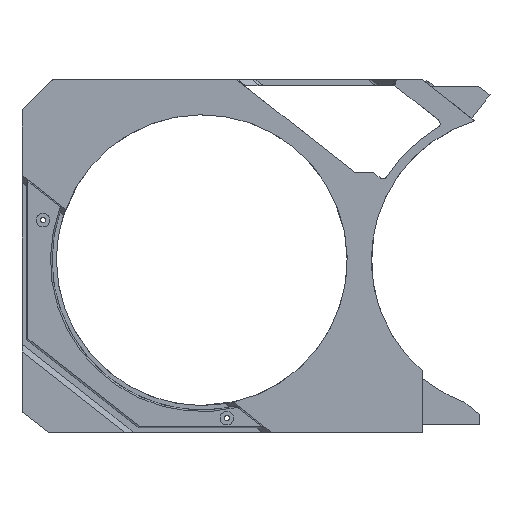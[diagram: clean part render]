
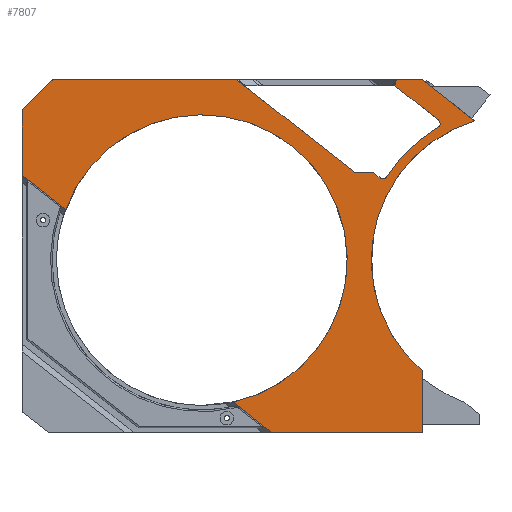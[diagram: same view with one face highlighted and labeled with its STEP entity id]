
A CAD part, top view. The second image highlights one B-rep face of the part: STEP entity #7807.
In plain terms, the highlighted planar face has unit normal (0, 0, 1).
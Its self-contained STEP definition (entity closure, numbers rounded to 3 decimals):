
#938=CARTESIAN_POINT('',(0.,0.,3.8));
#939=DIRECTION('',(0.,0.,-1.));
#940=DIRECTION('',(-0.649,-0.76,0.));
#941=AXIS2_PLACEMENT_3D('',#938,#939,#940);
#2371=DIRECTION('',(0.,1.,0.));
#2372=VECTOR('',#2371,20.52);
#2373=CARTESIAN_POINT('',(-31.498,-57.4,3.8));
#2374=LINE('',#2373,#2372);
#2378=DIRECTION('',(1.,0.,0.));
#2379=VECTOR('',#2378,50.345);
#2380=CARTESIAN_POINT('',(-81.843,-57.4,3.8));
#2381=LINE('',#2380,#2379);
#2385=DIRECTION('',(0.786,-0.618,0.));
#2386=VECTOR('',#2385,3.235);
#2387=CARTESIAN_POINT('',(-84.385,-55.4,
3.8));
#2388=LINE('',#2387,#2386);
#2392=DIRECTION('',(-0.786,0.618,0.));
#2393=VECTOR('',#2392,10.438);
#2394=CARTESIAN_POINT('',(-84.385,-55.4,
3.8));
#2395=LINE('',#2394,#2393);
#2399=DIRECTION('',(0.786,-0.618,0.));
#2400=VECTOR('',#2399,2.549);
#2401=CARTESIAN_POINT('',(-94.593,-47.37,3.8));
#2402=LINE('',#2401,#2400);
#2406=DIRECTION('',(-0.786,0.618,0.));
#2407=VECTOR('',#2406,2.104);
#2408=CARTESIAN_POINT('',(-150.453,16.921,3.8));
#2409=LINE('',#2408,#2407);
#2413=DIRECTION('',(-0.786,0.618,0.));
#2414=VECTOR('',#2413,13.861);
#2415=CARTESIAN_POINT('',(-152.106,18.221,3.8));
#2416=LINE('',#2415,#2414);
#2420=DIRECTION('',(-0.786,0.618,0.));
#2421=VECTOR('',#2420,2.545);
#2422=CARTESIAN_POINT('',(-163.,26.791,3.8));
#2423=LINE('',#2422,#2421);
#2427=DIRECTION('',(0.,-1.,0.));
#2428=VECTOR('',#2427,20.743);
#2429=CARTESIAN_POINT('',(-165.,49.107,3.8));
#2430=LINE('',#2429,#2428);
#2434=CARTESIAN_POINT('',(-162.6,49.107,3.8));
#2435=DIRECTION('',(0.,0.,1.));
#2436=DIRECTION('',(-0.707,0.707,0.));
#2437=AXIS2_PLACEMENT_3D('',#2434,#2435,#2436);
#2442=DIRECTION('',(-0.707,-0.707,0.));
#2443=VECTOR('',#2442,12.874);
#2444=CARTESIAN_POINT('',(-155.194,59.907,3.8));
#2445=LINE('',#2444,#2443);
#2449=CARTESIAN_POINT('',(-154.487,59.2,3.8));
#2450=DIRECTION('',(0.,0.,1.));
#2451=DIRECTION('',(0.,1.,0.));
#2452=AXIS2_PLACEMENT_3D('',#2449,#2450,#2451);
#2457=DIRECTION('',(-1.,0.,0.));
#2458=VECTOR('',#2457,61.155);
#2459=CARTESIAN_POINT('',(-93.332,60.2,3.8));
#2460=LINE('',#2459,#2458);
#2464=DIRECTION('',(-0.786,0.618,0.));
#2465=VECTOR('',#2464,49.393);
#2466=CARTESIAN_POINT('',(-54.51,29.662,3.8));
#2467=LINE('',#2466,#2465);
#2471=CARTESIAN_POINT('',(-53.521,30.92,3.8));
#2472=DIRECTION('',(0.,0.,-1.));
#2473=DIRECTION('',(0.,-1.,0.));
#2474=AXIS2_PLACEMENT_3D('',#2471,#2472,#2473);
#2479=DIRECTION('',(-1.,0.,0.));
#2480=VECTOR('',#2479,5.071);
#2481=CARTESIAN_POINT('',(-48.45,29.32,3.8));
#2482=LINE('',#2481,#2480);
#2486=CARTESIAN_POINT('',(-48.45,27.72,3.8));
#2487=DIRECTION('',(0.,0.,1.));
#2488=DIRECTION('',(0.618,0.786,0.));
#2489=AXIS2_PLACEMENT_3D('',#2486,#2487,#2488);
#2494=DIRECTION('',(-0.786,0.618,0.));
#2495=VECTOR('',#2494,2.461);
#2496=CARTESIAN_POINT('',(-45.526,27.455,3.8));
#2497=LINE('',#2496,#2495);
#2501=CARTESIAN_POINT('',(-44.599,28.634,3.8));
#2502=DIRECTION('',(0.,0.,-1.));
#2503=DIRECTION('',(0.841,-0.54,0.));
#2504=AXIS2_PLACEMENT_3D('',#2501,#2502,#2503);
#2509=CARTESIAN_POINT('',(0.,0.,3.8));
#2510=DIRECTION('',(0.,0.,1.));
#2511=DIRECTION('',(-0.51,0.86,0.));
#2512=AXIS2_PLACEMENT_3D('',#2509,#2510,#2511);
#2517=CARTESIAN_POINT('',(-27.03,45.589,3.8));
#2518=DIRECTION('',(0.,0.,-1.));
#2519=DIRECTION('',(0.618,0.786,0.));
#2520=AXIS2_PLACEMENT_3D('',#2517,#2518,#2519);
#2525=DIRECTION('',(0.786,-0.618,0.));
#2526=VECTOR('',#2525,18.525);
#2527=CARTESIAN_POINT('',(-40.663,58.222,3.8));
#2528=LINE('',#2527,#2526);
#2532=DIRECTION('',(-0.327,-0.945,0.));
#2533=VECTOR('',#2532,2.094);
#2534=CARTESIAN_POINT('',(-39.978,60.2,3.8));
#2535=LINE('',#2534,#2533);
#2539=DIRECTION('',(-1.,0.,0.));
#2540=VECTOR('',#2539,8.48);
#2541=CARTESIAN_POINT('',(-31.498,60.2,3.8));
#2542=LINE('',#2541,#2540);
#2546=DIRECTION('',(0.786,-0.618,0.));
#2547=VECTOR('',#2546,22.262);
#2548=CARTESIAN_POINT('',(-31.498,60.2,3.8));
#2549=LINE('',#2548,#2547);
#2686=CARTESIAN_POINT('',(-150.453,16.921,3.8));
#2844=CARTESIAN_POINT('',(-94.593,-47.37,3.8));
#3476=CARTESIAN_POINT('',(-105.,0.,3.8));
#3477=DIRECTION('',(0.,0.,-1.));
#3478=DIRECTION('',(-0.937,0.349,0.));
#3479=AXIS2_PLACEMENT_3D('',#3476,#3477,#3478);
#5109=CARTESIAN_POINT('',(-164.297,50.804,3.8));
#5110=CARTESIAN_POINT('',(-165.,49.107,3.8));
#5111=VERTEX_POINT('',#5109);
#5112=VERTEX_POINT('',#5110);
#5113=CARTESIAN_POINT('',(-39.978,60.2,3.8));
#5114=CARTESIAN_POINT('',(-40.663,58.222,3.8));
#5115=VERTEX_POINT('',#5113);
#5116=VERTEX_POINT('',#5114);
#5117=CARTESIAN_POINT('',(-26.103,46.768,3.8));
#5118=VERTEX_POINT('',#5117);
#5119=CARTESIAN_POINT('',(-26.265,44.299,3.8));
#5120=VERTEX_POINT('',#5119);
#5121=CARTESIAN_POINT('',(-43.337,27.824,3.8));
#5122=VERTEX_POINT('',#5121);
#5123=CARTESIAN_POINT('',(-45.526,27.455,3.8));
#5124=VERTEX_POINT('',#5123);
#5125=CARTESIAN_POINT('',(-47.461,28.977,3.8));
#5126=VERTEX_POINT('',#5125);
#5127=CARTESIAN_POINT('',(-48.45,29.32,3.8));
#5128=VERTEX_POINT('',#5127);
#5129=CARTESIAN_POINT('',(-53.521,29.32,3.8));
#5130=VERTEX_POINT('',#5129);
#5131=CARTESIAN_POINT('',(-54.51,29.662,3.8));
#5132=VERTEX_POINT('',#5131);
#5133=CARTESIAN_POINT('',(-93.332,60.2,3.8));
#5134=VERTEX_POINT('',#5133);
#5135=CARTESIAN_POINT('',(-154.487,60.2,3.8));
#5136=VERTEX_POINT('',#5135);
#5137=CARTESIAN_POINT('',(-155.194,59.907,3.8));
#5138=VERTEX_POINT('',#5137);
#5481=CARTESIAN_POINT('',(-81.843,-57.4,3.8));
#5483=VERTEX_POINT('',#5481);
#5487=VERTEX_POINT('',#2844);
#5488=VERTEX_POINT('',#2686);
#5491=CARTESIAN_POINT('',(-165.,28.364,3.8));
#5493=VERTEX_POINT('',#5491);
#5528=CARTESIAN_POINT('',(-14.001,46.435,3.8));
#5530=VERTEX_POINT('',#5528);
#5532=CARTESIAN_POINT('',(-31.498,60.2,3.8));
#5533=VERTEX_POINT('',#5532);
#5600=CARTESIAN_POINT('',(-31.498,-57.4,3.8));
#5601=VERTEX_POINT('',#5600);
#5602=CARTESIAN_POINT('',(-31.498,-36.88,3.8));
#5604=VERTEX_POINT('',#5602);
#5636=CARTESIAN_POINT('',(-152.106,18.221,3.8));
#5637=CARTESIAN_POINT('',(-163.,26.791,3.8));
#5638=VERTEX_POINT('',#5636);
#5639=VERTEX_POINT('',#5637);
#5644=CARTESIAN_POINT('',(-84.385,-55.4,
3.8));
#5645=CARTESIAN_POINT('',(-92.589,-48.947,
3.8));
#5646=VERTEX_POINT('',#5644);
#5647=VERTEX_POINT('',#5645);
#7762=CARTESIAN_POINT('',(0.,0.,3.8));
#7763=DIRECTION('',(0.,0.,1.));
#7764=DIRECTION('',(1.,0.,0.));
#7765=AXIS2_PLACEMENT_3D('',#7762,#7763,#7764);
#7766=PLANE('',#7765);
#7768=ORIENTED_EDGE('',*,*,#7767,.F.);
#7770=ORIENTED_EDGE('',*,*,#7769,.F.);
#7772=ORIENTED_EDGE('',*,*,#7771,.F.);
#7774=ORIENTED_EDGE('',*,*,#7773,.T.);
#7776=ORIENTED_EDGE('',*,*,#7775,.F.);
#7778=ORIENTED_EDGE('',*,*,#7777,.F.);
#7780=ORIENTED_EDGE('',*,*,#7779,.T.);
#7781=ORIENTED_EDGE('',*,*,#7732,.T.);
#7783=ORIENTED_EDGE('',*,*,#7782,.T.);
#7785=ORIENTED_EDGE('',*,*,#7784,.F.);
#7787=ORIENTED_EDGE('',*,*,#7786,.F.);
#7788=ORIENTED_EDGE('',*,*,#5743,.F.);
#7789=ORIENTED_EDGE('',*,*,#6088,.F.);
#7790=ORIENTED_EDGE('',*,*,#6165,.F.);
#7791=ORIENTED_EDGE('',*,*,#6737,.F.);
#7792=ORIENTED_EDGE('',*,*,#6757,.F.);
#7793=ORIENTED_EDGE('',*,*,#6771,.F.);
#7794=ORIENTED_EDGE('',*,*,#6785,.F.);
#7795=ORIENTED_EDGE('',*,*,#6799,.F.);
#7796=ORIENTED_EDGE('',*,*,#6813,.F.);
#7797=ORIENTED_EDGE('',*,*,#6827,.F.);
#7798=ORIENTED_EDGE('',*,*,#6841,.F.);
#7799=ORIENTED_EDGE('',*,*,#6869,.F.);
#7801=ORIENTED_EDGE('',*,*,#7800,.F.);
#7802=ORIENTED_EDGE('',*,*,#6145,.F.);
#7803=ORIENTED_EDGE('',*,*,#6384,.T.);
#7804=ORIENTED_EDGE('',*,*,#6460,.F.);
#7805=EDGE_LOOP('',(#7768,#7770,#7772,#7774,#7776,#7778,#7780,#7781,#7783,#7785,
#7787,#7788,#7789,#7790,#7791,#7792,#7793,#7794,#7795,#7796,#7797,#7798,#7799,
#7801,#7802,#7803,#7804));
#7806=FACE_OUTER_BOUND('',#7805,.F.);
#942=CIRCLE('',#941,48.5);
#2438=CIRCLE('',#2437,2.4);
#2453=CIRCLE('',#2452,1.);
#2475=CIRCLE('',#2474,1.6);
#2490=CIRCLE('',#2489,1.6);
#2505=CIRCLE('',#2504,1.5);
#2513=CIRCLE('',#2512,51.5);
#2521=CIRCLE('',#2520,1.5);
#3480=CIRCLE('',#3479,48.5);
#5743=EDGE_CURVE('',#5138,#5111,#2445,.T.);
#6088=EDGE_CURVE('',#5136,#5138,#2453,.T.);
#6145=EDGE_CURVE('',#5533,#5115,#2542,.T.);
#6165=EDGE_CURVE('',#5134,#5136,#2460,.T.);
#6384=EDGE_CURVE('',#5533,#5530,#2549,.T.);
#6460=EDGE_CURVE('',#5604,#5530,#942,.T.);
#6737=EDGE_CURVE('',#5132,#5134,#2467,.T.);
#6757=EDGE_CURVE('',#5130,#5132,#2475,.T.);
#6771=EDGE_CURVE('',#5128,#5130,#2482,.T.);
#6785=EDGE_CURVE('',#5126,#5128,#2490,.T.);
#6799=EDGE_CURVE('',#5124,#5126,#2497,.T.);
#6813=EDGE_CURVE('',#5122,#5124,#2505,.T.);
#6827=EDGE_CURVE('',#5120,#5122,#2513,.T.);
#6841=EDGE_CURVE('',#5118,#5120,#2521,.T.);
#6869=EDGE_CURVE('',#5116,#5118,#2528,.T.);
#7732=EDGE_CURVE('',#5638,#5639,#2416,.T.);
#7767=EDGE_CURVE('',#5601,#5604,#2374,.T.);
#7769=EDGE_CURVE('',#5483,#5601,#2381,.T.);
#7771=EDGE_CURVE('',#5646,#5483,#2388,.T.);
#7773=EDGE_CURVE('',#5646,#5647,#2395,.T.);
#7775=EDGE_CURVE('',#5487,#5647,#2402,.T.);
#7777=EDGE_CURVE('',#5488,#5487,#3480,.T.);
#7779=EDGE_CURVE('',#5488,#5638,#2409,.T.);
#7782=EDGE_CURVE('',#5639,#5493,#2423,.T.);
#7784=EDGE_CURVE('',#5112,#5493,#2430,.T.);
#7786=EDGE_CURVE('',#5111,#5112,#2438,.T.);
#7800=EDGE_CURVE('',#5115,#5116,#2535,.T.);
#7807=ADVANCED_FACE('',(#7806),#7766,.T.);
